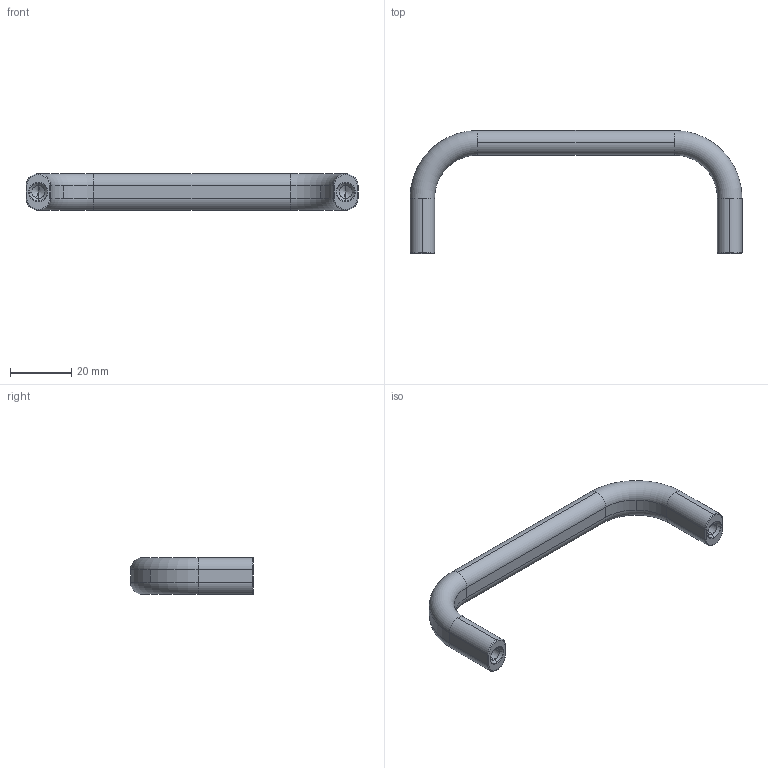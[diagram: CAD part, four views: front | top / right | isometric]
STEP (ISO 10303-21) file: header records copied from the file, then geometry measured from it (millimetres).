
FILE_DESCRIPTION((''),'2;1');
FILE_NAME('c:\wix\Knobs\7892\7892.W010.stp','2003-04-04T16:41:49',('joanc'),(''),'Autodesk Inventor (tm) 5.3','Autodesk Inventor (tm) 5.3','');
FILE_SCHEMA(('CONFIG_CONTROL_DESIGN'));
Length unit declared in the file: millimetre
Products named in the file (1): 7892.W010
Bounding box: 108 x 40 x 12 mm (x, y, z)
Volume: 12465.4 mm3; surface area: 5704.6 mm2
Topology: 1 solids, 1 shells, 68 faces, 154 edges, 86 vertices
Faces by surface type: cylinder 32, torus 16, cone 12, plane 8
Entity records: 1965 total; most frequent: DIRECTION 380, CARTESIAN_POINT 305, ORIENTED_EDGE 300, AXIS2_PLACEMENT_3D 161, EDGE_CURVE 150, CIRCLE 92, VERTEX_POINT 86, EDGE_LOOP 70
